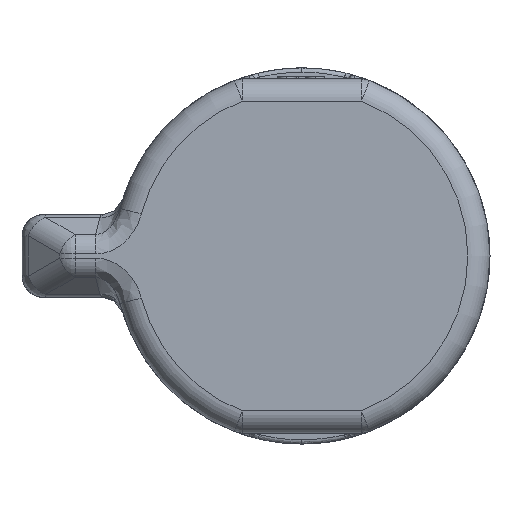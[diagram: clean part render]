
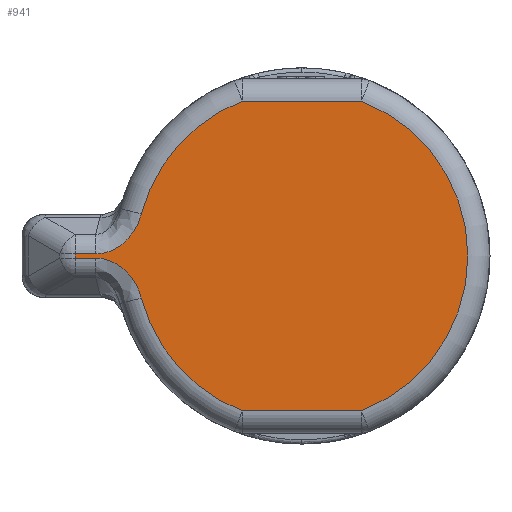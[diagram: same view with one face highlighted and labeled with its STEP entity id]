
A CAD part, left-side view. The second image highlights one B-rep face of the part: STEP entity #941.
In plain terms, the highlighted planar face has unit normal (-1, 0, 0) as drawn and (0, 0, -1) by its records, which use the part's own axes.
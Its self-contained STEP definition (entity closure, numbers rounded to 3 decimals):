
#163 = AXIS2_PLACEMENT_3D ( 'NONE', #27449, #11611, #40092 ) ;
#207 = VERTEX_POINT ( 'NONE', #6692 ) ;
#941 = ADVANCED_FACE ( 'NONE', ( #33303 ), #36477, .F. ) ;
#1000 = EDGE_LOOP ( 'NONE', ( #33120, #24538, #8677, #19688, #44203, #2356, #28742, #4629, #47559, #25531 ) ) ;
#1124 = DIRECTION ( 'NONE',  ( 0., -1., 0. ) ) ;
#1929 = CARTESIAN_POINT ( 'NONE',  ( 1.661, 7.318, -24.5 ) ) ;
#2104 = VERTEX_POINT ( 'NONE', #24670 ) ;
#2123 = CARTESIAN_POINT ( 'NONE',  ( -0.567, 8.078, -24.5 ) ) ;
#2160 = CARTESIAN_POINT ( 'NONE',  ( -0.098, 9.322, -24.5 ) ) ;
#2356 = ORIENTED_EDGE ( 'NONE', *, *, #46009, .T. ) ;
#3451 = CARTESIAN_POINT ( 'NONE',  ( -1.9, 7.255, -24.5 ) ) ;
#3820 = CARTESIAN_POINT ( 'NONE',  ( 0.675, 10.236, -24.5 ) ) ;
#4080 = CIRCLE ( 'NONE', #48723, 7.5 ) ;
#4629 = ORIENTED_EDGE ( 'NONE', *, *, #35111, .T. ) ;
#6190 = DIRECTION ( 'NONE',  ( 1., 0., 0. ) ) ;
#6692 = CARTESIAN_POINT ( 'NONE',  ( -0.098, 10.236, -24.5 ) ) ;
#6957 = CARTESIAN_POINT ( 'NONE',  ( -1.661, 7.318, -24.5 ) ) ;
#7614 = CARTESIAN_POINT ( 'NONE',  ( 7., -2.693, -24.5 ) ) ;
#8054 = DIRECTION ( 'NONE',  ( 0., 1., 0. ) ) ;
#8614 = LINE ( 'NONE', #3820, #39318 ) ;
#8677 = ORIENTED_EDGE ( 'NONE', *, *, #40860, .T. ) ;
#8989 = CIRCLE ( 'NONE', #163, 7.5 ) ;
#9007 = EDGE_CURVE ( 'NONE', #24871, #34763, #48469, .T. ) ;
#9868 = CARTESIAN_POINT ( 'NONE',  ( 0.098, 9.198, -24.5 ) ) ;
#10354 = EDGE_CURVE ( 'NONE', #23230, #26135, #48714, .T. ) ;
#11151 = VECTOR ( 'NONE', #12006, 1000. ) ;
#11324 = VERTEX_POINT ( 'NONE', #28704 ) ;
#11611 = DIRECTION ( 'NONE',  ( 0., 0., -1. ) ) ;
#11697 = DIRECTION ( 'NONE',  ( 0., 0., -1. ) ) ;
#11791 = CARTESIAN_POINT ( 'NONE',  ( -0.098, 10.65, -24.5 ) ) ;
#12006 = DIRECTION ( 'NONE',  ( 0., -1., 0. ) ) ;
#12484 = VECTOR ( 'NONE', #1124, 1000. ) ;
#13744 = DIRECTION ( 'NONE',  ( 1., 0., 0. ) ) ;
#13872 = CARTESIAN_POINT ( 'NONE',  ( 0.294, 8.492, -24.5 ) ) ;
#14063 = CARTESIAN_POINT ( 'NONE',  ( -1.435, 7.41, -24.5 ) ) ;
#14828 = CARTESIAN_POINT ( 'NONE',  ( -0.296, 8.489, -24.5 ) ) ;
#15963 = CARTESIAN_POINT ( 'NONE',  ( 7., 0., -24.5 ) ) ;
#16214 = CARTESIAN_POINT ( 'NONE',  ( 0.198, 8.719, -24.5 ) ) ;
#16767 = VERTEX_POINT ( 'NONE', #32622 ) ;
#16991 = CARTESIAN_POINT ( 'NONE',  ( 0.487, 8.18, -24.5 ) ) ;
#19688 = ORIENTED_EDGE ( 'NONE', *, *, #9007, .T. ) ;
#21176 = CARTESIAN_POINT ( 'NONE',  ( -0.098, 9.073, -24.5 ) ) ;
#21506 = B_SPLINE_CURVE_WITH_KNOTS ( 'NONE', 3,
 ( #31273, #9868, #28905, #22596, #16214, #13872, #24952, #16991, #41598, #24173, #31311, #43167, #1929, #44720 ),
 .UNSPECIFIED., .F., .F.,
 ( 4, 2, 2, 2, 2, 2, 4 ),
 ( 0., 0., 0.001, 0.001, 0.001, 0.002, 0.003 ),
 .UNSPECIFIED. ) ;
#22596 = CARTESIAN_POINT ( 'NONE',  ( 0.161, 8.837, -24.5 ) ) ;
#23050 = AXIS2_PLACEMENT_3D ( 'NONE', #28028, #34330, #13744 ) ;
#23230 = VERTEX_POINT ( 'NONE', #44607 ) ;
#24173 = CARTESIAN_POINT ( 'NONE',  ( 0.814, 7.812, -24.5 ) ) ;
#24538 = ORIENTED_EDGE ( 'NONE', *, *, #42500, .T. ) ;
#24670 = CARTESIAN_POINT ( 'NONE',  ( -0.098, 9.322, -24.5 ) ) ;
#24871 = VERTEX_POINT ( 'NONE', #27056 ) ;
#24952 = CARTESIAN_POINT ( 'NONE',  ( 0.352, 8.385, -24.5 ) ) ;
#25531 = ORIENTED_EDGE ( 'NONE', *, *, #39876, .T. ) ;
#26135 = VERTEX_POINT ( 'NONE', #31379 ) ;
#26186 = DIRECTION ( 'NONE',  ( 0., 0., 1. ) ) ;
#27056 = CARTESIAN_POINT ( 'NONE',  ( -7., -2.693, -24.5 ) ) ;
#27449 = CARTESIAN_POINT ( 'NONE',  ( 0., 0., -24.5 ) ) ;
#28028 = CARTESIAN_POINT ( 'NONE',  ( 0., 0., -24.5 ) ) ;
#28370 = CARTESIAN_POINT ( 'NONE',  ( -1.9, 7.255, -24.5 ) ) ;
#28498 = VECTOR ( 'NONE', #8054, 1000. ) ;
#28704 = CARTESIAN_POINT ( 'NONE',  ( 1.9, 7.255, -24.5 ) ) ;
#28717 = EDGE_CURVE ( 'NONE', #34763, #44554, #8989, .T. ) ;
#28742 = ORIENTED_EDGE ( 'NONE', *, *, #48061, .T. ) ;
#28905 = CARTESIAN_POINT ( 'NONE',  ( 0.111, 9.076, -24.5 ) ) ;
#29451 = CARTESIAN_POINT ( 'NONE',  ( -7., 0., -24.5 ) ) ;
#29908 = CARTESIAN_POINT ( 'NONE',  ( -0.491, 8.173, -24.5 ) ) ;
#30660 = CARTESIAN_POINT ( 'NONE',  ( -7., 2.693, -24.5 ) ) ;
#31273 = CARTESIAN_POINT ( 'NONE',  ( 0.098, 9.322, -24.5 ) ) ;
#31311 = CARTESIAN_POINT ( 'NONE',  ( 1.01, 7.658, -24.5 ) ) ;
#31379 = CARTESIAN_POINT ( 'NONE',  ( 0.098, 9.322, -24.5 ) ) ;
#31835 = CIRCLE ( 'NONE', #23050, 7.5 ) ;
#32402 = DIRECTION ( 'NONE',  ( 0., 1., 0. ) ) ;
#32622 = CARTESIAN_POINT ( 'NONE',  ( 7., 2.693, -24.5 ) ) ;
#33120 = ORIENTED_EDGE ( 'NONE', *, *, #37128, .T. ) ;
#33303 = FACE_OUTER_BOUND ( 'NONE', #1000, .T. ) ;
#33898 = CARTESIAN_POINT ( 'NONE',  ( 0., 0., -24.5 ) ) ;
#34330 = DIRECTION ( 'NONE',  ( 0., 0., -1. ) ) ;
#34669 = CARTESIAN_POINT ( 'NONE',  ( -1.013, 7.655, -24.5 ) ) ;
#34763 = VERTEX_POINT ( 'NONE', #30660 ) ;
#35111 = EDGE_CURVE ( 'NONE', #207, #23230, #8614, .T. ) ;
#36219 = CARTESIAN_POINT ( 'NONE',  ( -0.356, 8.379, -24.5 ) ) ;
#36477 = PLANE ( 'NONE',  #41034 ) ;
#36586 = LINE ( 'NONE', #15963, #11151 ) ;
#37128 = EDGE_CURVE ( 'NONE', #11324, #16767, #4080, .T. ) ;
#38709 = LINE ( 'NONE', #11791, #41816 ) ;
#38832 = CARTESIAN_POINT ( 'NONE',  ( 0., 0., -24.5 ) ) ;
#39318 = VECTOR ( 'NONE', #40270, 1000. ) ;
#39876 = EDGE_CURVE ( 'NONE', #26135, #11324, #21506, .T. ) ;
#40092 = DIRECTION ( 'NONE',  ( 1., 0., 0. ) ) ;
#40270 = DIRECTION ( 'NONE',  ( 1., 0., 0. ) ) ;
#40740 = CARTESIAN_POINT ( 'NONE',  ( 0.098, 7.47, -24.5 ) ) ;
#40860 = EDGE_CURVE ( 'NONE', #46836, #24871, #31835, .T. ) ;
#40968 = CARTESIAN_POINT ( 'NONE',  ( -0.816, 7.81, -24.5 ) ) ;
#41034 = AXIS2_PLACEMENT_3D ( 'NONE', #38832, #26186, #45981 ) ;
#41598 = CARTESIAN_POINT ( 'NONE',  ( 0.564, 8.082, -24.5 ) ) ;
#41816 = VECTOR ( 'NONE', #32402, 1000. ) ;
#42500 = EDGE_CURVE ( 'NONE', #16767, #46836, #36586, .T. ) ;
#42552 = CARTESIAN_POINT ( 'NONE',  ( -0.152, 8.827, -24.5 ) ) ;
#42816 = B_SPLINE_CURVE_WITH_KNOTS ( 'NONE', 3,
 ( #28370, #6957, #14063, #34669, #40968, #2123, #29908, #36219, #14828, #42552, #21176, #2160 ),
 .UNSPECIFIED., .F., .F.,
 ( 4, 2, 2, 2, 2, 4 ),
 ( 0., 0.001, 0.001, 0.002, 0.002, 0.003 ),
 .UNSPECIFIED. ) ;
#43167 = CARTESIAN_POINT ( 'NONE',  ( 1.433, 7.412, -24.5 ) ) ;
#44203 = ORIENTED_EDGE ( 'NONE', *, *, #28717, .T. ) ;
#44554 = VERTEX_POINT ( 'NONE', #3451 ) ;
#44607 = CARTESIAN_POINT ( 'NONE',  ( 0.098, 10.236, -24.5 ) ) ;
#44720 = CARTESIAN_POINT ( 'NONE',  ( 1.9, 7.255, -24.5 ) ) ;
#45981 = DIRECTION ( 'NONE',  ( 1., 0., 0. ) ) ;
#46009 = EDGE_CURVE ( 'NONE', #44554, #2104, #42816, .T. ) ;
#46836 = VERTEX_POINT ( 'NONE', #7614 ) ;
#47559 = ORIENTED_EDGE ( 'NONE', *, *, #10354, .T. ) ;
#48061 = EDGE_CURVE ( 'NONE', #2104, #207, #38709, .T. ) ;
#48469 = LINE ( 'NONE', #29451, #28498 ) ;
#48714 = LINE ( 'NONE', #40740, #12484 ) ;
#48723 = AXIS2_PLACEMENT_3D ( 'NONE', #33898, #11697, #6190 ) ;
